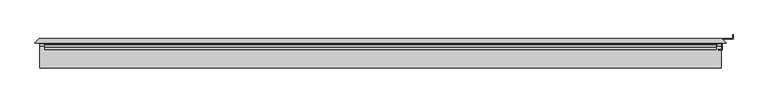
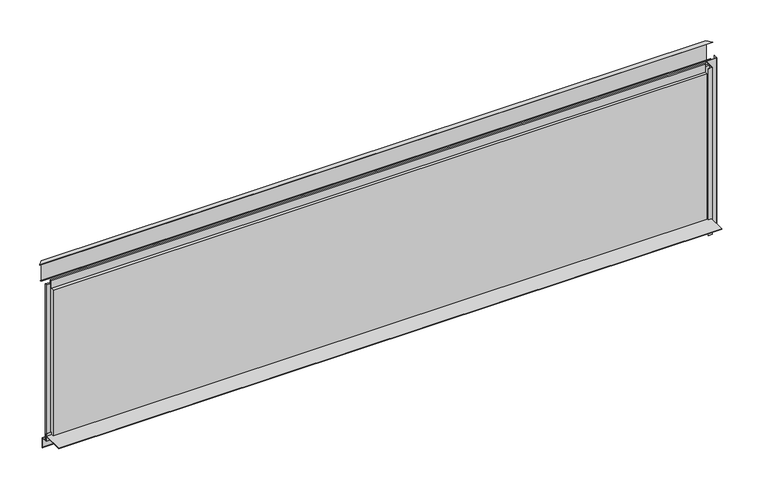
"""IFC4 building model written with IfcOpenShell, lengths in millimetres: plate geometry, Trimo_Qbiss Screen_Normal Panel-HORIZONTAL : HR - B."""

import ifcopenshell
import ifcopenshell.guid

model = None  # the IFC model being written
_history = None  # IfcOwnerHistory: only IFC2X3 demands one
_inside = {}  # id of a spatial element -> (the spatial element, [elements in it])
_under = {}  # id of a project, library or spatial element -> (it, [spatial elements below it])
_declared = {}  # id of a project -> (the project, [libraries it declares])
_typed = {}  # id of a type object -> (the type object, [elements of that type])
_made_of = {}  # id of a material, layer set ... -> (it, [elements and type objects made of it])


def new_model(schema):
    """Start an empty IFC model of exactly this schema.

    Asked for "IFC4X3", IfcOpenShell would pick the latest addendum, in which some entities
    have other attributes; the version numbers below select the first issue.
    IFC2X3 requires an IfcOwnerHistory on every rooted entity: one is made here for all.
    """
    global model, _history
    if schema == "IFC4X3":
        model = ifcopenshell.file(schema_version=(4, 3, 0, 0))
    else:
        model = ifcopenshell.file(schema=schema)
    _inside.clear()
    _under.clear()
    _declared.clear()
    _typed.clear()
    _made_of.clear()
    _history = None
    if model.schema == "IFC2X3":
        org = make("IfcOrganization", Name="unknown")
        user = make(
            "IfcPersonAndOrganization",
            ThePerson=make("IfcPerson", FamilyName="unknown"),
            TheOrganization=org,
        )
        app = make(
            "IfcApplication",
            ApplicationDeveloper=org,
            Version="unknown",
            ApplicationFullName="unknown",
            ApplicationIdentifier="unknown",
        )
        _history = make(
            "IfcOwnerHistory",
            OwningUser=user,
            OwningApplication=app,
            ChangeAction="ADDED",
            CreationDate=0,
        )
    return model


def make(cls, **values):
    """One entity of the class cls with the attributes given. An attribute that is None is left unset."""
    return model.create_entity(
        cls, **{name: value for name, value in values.items() if value is not None}
    )


def rooted(cls, **values):
    """An entity with a GlobalId (a new one), such as an element, a storey or a relation."""
    return make(cls, GlobalId=ifcopenshell.guid.new(), OwnerHistory=_history, **values)


def si_unit(unit_type, name, prefix=None):
    """IfcSIUnit, for example si_unit("LENGTHUNIT", "METRE", prefix="MILLI")."""
    return make("IfcSIUnit", UnitType=unit_type, Prefix=prefix, Name=name)


def assignment(units):
    """IfcUnitAssignment: the units of a project."""
    return None if units is None else make("IfcUnitAssignment", Units=units)


def point(xyz):
    """IfcCartesianPoint."""
    return None if xyz is None else make("IfcCartesianPoint", Coordinates=xyz)


def direction(xyz):
    """IfcDirection."""
    return None if xyz is None else make("IfcDirection", DirectionRatios=xyz)


def frame(location, z_axis=None, x_axis=None):
    """IfcAxis2Placement3D, a coordinate frame: its origin and axes. An axis left out is left unset."""
    return make(
        "IfcAxis2Placement3D",
        Location=point(location),
        Axis=direction(z_axis),
        RefDirection=direction(x_axis),
    )


def origin():
    """The frame at (0, 0, 0) with its axes left unset."""
    return frame((0.0, 0.0, 0.0))


def place(relative_to, where):
    """IfcLocalPlacement: puts the frame where relative to a parent placement (None: the world)."""
    return make(
        "IfcLocalPlacement", PlacementRelTo=relative_to, RelativePlacement=where
    )


def context(
    kind, dimensions, precision=None, world=None, true_north=None, identifier=None
):
    """IfcGeometricRepresentationContext, for example the 3D "Model" context."""
    return make(
        "IfcGeometricRepresentationContext",
        ContextIdentifier=identifier,
        ContextType=kind,
        CoordinateSpaceDimension=dimensions,
        Precision=precision,
        WorldCoordinateSystem=world,
        TrueNorth=true_north,
    )


def project(units=None, contexts=None):
    """IfcProject with its units and contexts."""
    return rooted(
        "IfcProject",
        Name="project",
        RepresentationContexts=contexts,
        UnitsInContext=assignment(units),
    )


def spatial(cls, under=None, at=None, **own):
    """A site, building, storey or space (cls), placed at a placement, below another one or the project."""
    s = rooted(cls, ObjectPlacement=at, **own)
    if under is not None:
        _under.setdefault(under.id(), (under, []))[1].append(s)
    return s


def polyline(points):
    """IfcPolyline through the points."""
    return make("IfcPolyline", Points=[point(p) for p in points])


def outline(outer, holes=None, kind="AREA"):
    """IfcArbitraryClosedProfileDef: a profile drawn as a closed curve; with holes, ...WithVoids."""
    if holes is None:
        return make("IfcArbitraryClosedProfileDef", ProfileType=kind, OuterCurve=outer)
    return make(
        "IfcArbitraryProfileDefWithVoids",
        ProfileType=kind,
        OuterCurve=outer,
        InnerCurves=holes,
    )


def extrude(swept, where, along, depth):
    """IfcExtrudedAreaSolid: the profile swept, set in the frame where, extruded along a direction by depth."""
    return make(
        "IfcExtrudedAreaSolid",
        SweptArea=swept,
        Position=where,
        ExtrudedDirection=direction(along),
        Depth=depth,
    )


def faces_of(points, faces, orient=None, outer=None):
    """IfcFace entities. A face is a list of loops; a loop is a list of indices into points, from 0.

    orient and outer hold one flag for each loop. By default every Orientation is true, the
    first loop of a face is its IfcFaceOuterBound and the others are IfcFaceBound.
    """
    made = []
    for i, loops in enumerate(faces):
        bounds = []
        for j, loop in enumerate(loops):
            is_outer = j == 0 if outer is None else outer[i][j]
            bounds.append(
                make(
                    "IfcFaceOuterBound" if is_outer else "IfcFaceBound",
                    Bound=make("IfcPolyLoop", Polygon=[points[k] for k in loop]),
                    Orientation=True if orient is None else orient[i][j],
                )
            )
        made.append(make("IfcFace", Bounds=bounds))
    return made


def faceted_brep(points, faces, orient=None, outer=None, voids=None):
    """IfcFacetedBrep: a solid bounded by flat faces; with voids (closed shells), ...WithVoids."""
    shared = [point(p) for p in points]
    hull = make("IfcClosedShell", CfsFaces=faces_of(shared, faces, orient, outer))
    if voids is None:
        return make("IfcFacetedBrep", Outer=hull)
    return make(
        "IfcFacetedBrepWithVoids",
        Outer=hull,
        Voids=[
            make(cls, CfsFaces=faces_of(shared, fs, o, b)) for cls, fs, o, b in voids
        ],
    )


def shape(context_of_items, identifier, shape_type, items):
    """IfcShapeRepresentation: the items that make up one representation, for example the "Body"."""
    return make(
        "IfcShapeRepresentation",
        ContextOfItems=context_of_items,
        RepresentationIdentifier=identifier,
        RepresentationType=shape_type,
        Items=items,
    )


def source(mapping_origin, context_of_items, identifier, shape_type, items):
    """IfcRepresentationMap: a shape defined once, which mapped items show again and again."""
    return make(
        "IfcRepresentationMap",
        MappingOrigin=mapping_origin,
        MappedRepresentation=shape(context_of_items, identifier, shape_type, items),
    )


def transform(
    local_origin,
    x_axis=None,
    y_axis=None,
    z_axis=None,
    scale=None,
    scale2=None,
    scale3=None,
    uniform=True,
):
    """IfcCartesianTransformationOperator3D, or its non-uniform kind. x_axis, y_axis, z_axis: its Axis1, 2, 3."""
    if uniform:
        return make(
            "IfcCartesianTransformationOperator3D",
            Axis1=direction(x_axis),
            Axis2=direction(y_axis),
            LocalOrigin=point(local_origin),
            Scale=scale,
            Axis3=direction(z_axis),
        )
    return make(
        "IfcCartesianTransformationOperator3DnonUniform",
        Axis1=direction(x_axis),
        Axis2=direction(y_axis),
        LocalOrigin=point(local_origin),
        Scale=scale,
        Axis3=direction(z_axis),
        Scale2=scale2,
        Scale3=scale3,
    )


def mapped(mapping_source, mapping_target):
    """IfcMappedItem: shows the shape of a source again, moved by a transform."""
    return make(
        "IfcMappedItem", MappingSource=mapping_source, MappingTarget=mapping_target
    )


def made_of(thing, what):
    """Note that an element or type object is made of a material, layer set ...; save() writes the relation."""
    if what is not None:
        _made_of.setdefault(what.id(), (what, []))[1].append(thing)
    return thing


def element(
    cls,
    number,
    at=None,
    inside=None,
    cuts=None,
    type_object=None,
    material=None,
    context=None,
    identifier="Body",
    shape_type=None,
    held_by="IfcProductDefinitionShape",
    body=None,
    shapes=None,
    **own,
):
    """One element of the class cls, such as IfcWall. Its Tag is "e" and its number.

    at: its placement. inside: the storey or other place that contains it. cuts: it is an
    opening in that element (IfcRelVoidsElement). A single representation is given by context,
    identifier, shape_type and body (its items); several are given by shapes. held_by: the class
    of the entity that holds the representations. save() writes the other relations.
    """
    e = rooted(cls, Tag="e%d" % number, ObjectPlacement=at, **own)
    if body is not None:
        shapes = [shape(context, identifier, shape_type, body)]
    if shapes is not None:
        e.Representation = make(held_by, Representations=shapes)
    if inside is not None:
        _inside.setdefault(inside.id(), (inside, []))[1].append(e)
    if cuts is not None:
        rooted(
            "IfcRelVoidsElement", RelatingBuildingElement=cuts, RelatedOpeningElement=e
        )
    if type_object is not None:
        _typed.setdefault(type_object.id(), (type_object, []))[1].append(e)
    return made_of(e, material)


def aggregate(whole, parts):
    """IfcRelAggregates: a whole, such as a stair, and the parts it consists of."""
    return rooted("IfcRelAggregates", RelatingObject=whole, RelatedObjects=parts)


def save(model, path):
    """Write the relations noted so far, then the file.

    IfcRelAggregates (storeys below a building ...), IfcRelContainedInSpatialStructure (elements
    in a storey), IfcRelDefinesByType, IfcRelAssociatesMaterial and IfcRelDeclares: one each for
    every whole, place, type object, material and project.
    """
    for whole, parts in _under.values():
        aggregate(whole, parts)
    for where, things in _inside.values():
        rooted(
            "IfcRelContainedInSpatialStructure",
            RelatedElements=things,
            RelatingStructure=where,
        )
    for kind, things in _typed.values():
        rooted("IfcRelDefinesByType", RelatedObjects=things, RelatingType=kind)
    for what, things in _made_of.values():
        rooted("IfcRelAssociatesMaterial", RelatedObjects=things, RelatingMaterial=what)
    for by, libraries in _declared.values():
        rooted("IfcRelDeclares", RelatingContext=by, RelatedDefinitions=libraries)
    model.write(path)


def plate_da8b7aa8(model_context):
    return source(origin(), model_context, "Body", "SolidModel", [
        faceted_brep([(1564.1421356, 85.8578644, 762.3421356), (1550.0, 100.0, 748.2), (1550.0, 100.0, 848.2), (1569.9307219, 80.0692781, 847.1554751), (1569.9307219, 80.0692781, 846.3543772), (1550.8, 99.2, 847.3569759), (1550.8, 99.2, 750.1313708), (1563.5764502, 86.4235498, 762.907821), (-1564.1421356, 85.8578644, 762.3421356), (-1550.0, 100.0, 748.2), (-1563.5764502, 86.4235498, 762.907821), (-1550.8, 99.2, 750.1313708), (-1550.8, 99.2, 847.3569759), (-1569.9307219, 80.0692781, 846.3543772), (-1569.9307219, 80.0692781, 847.1554751), (-1550.0, 100.0, 848.2)], [[[0, 1, 2, 3, 4, 5, 6, 7]], [[1, 0, 8, 9]], [[0, 7, 10, 8]], [[7, 6, 11, 10]], [[6, 5, 12, 11]], [[5, 4, 13, 12]], [[4, 3, 14, 13]], [[3, 2, 15, 14]], [[2, 1, 9, 15]], [[9, 8, 10, 11, 12, 13, 14, 15]]]),
        extrude(outline(polyline([(66.7, 14.0835797), (67.5, 14.0835797), (67.5, -23.0), (100.0, -25.8433816), (100.0, -76.0), (87.1509533, -63.1509533), (87.7166388, -62.5852679), (99.2, -74.0686292), (99.2, -26.5764465), (66.7, -23.7330649), (66.7, 1.0), (-32.5, 1.0), (-32.5, 1.8), (66.7, 1.8), (66.7, 14.0835797)])), frame((-1547.0, 0.0, 0.0), z_axis=(1.0, 0.0, 0.0), x_axis=(0.0, 1.0, 0.0)), (0.0, 0.0, 1.0), 3094.0),
        extrude(outline(polyline([(1550.0, 50.0), (1550.0, 100.0), (1600.0, 100.0), (1600.0, 118.5), (1600.8, 118.5), (1600.8, 99.2), (1550.8, 99.2), (1550.8, 49.2), (1532.5, 49.2), (1532.5, 50.0), (1550.0, 50.0)])), frame((0.0, 0.0, -76.0), z_axis=(0.0, 0.0, 1.0), x_axis=(1.0, 0.0, 0.0)), (0.0, 0.0, 1.0), 823.2),
        extrude(outline(polyline([(-1528.0, 76.5978162), (-1528.0, 67.8978162), (-1547.0, 67.8978162), (-1547.0, 76.5978162), (-1528.0, 76.5978162)])), frame((0.0, 0.0, -20.0), z_axis=(0.0, 0.0, 1.0), x_axis=(1.0, 0.0, 0.0)), (0.0, 0.0, 1.0), 767.2),
        extrude(outline(polyline([(1528.0, 67.8978162), (1528.0, 76.5978162), (1547.0, 76.5978162), (1547.0, 67.8978162), (1528.0, 67.8978162)])), frame((0.0, 0.0, -20.0), z_axis=(0.0, 0.0, 1.0), x_axis=(1.0, 0.0, 0.0)), (0.0, 0.0, 1.0), 767.2),
        extrude(outline(polyline([(1525.0, 76.0), (1525.0, 71.0), (-1525.0, 71.0), (-1525.0, 76.0), (1525.0, 76.0)])), frame((0.0, 0.0, 726.2), z_axis=(0.0, 0.0, 1.0), x_axis=(1.0, 0.0, 0.0)), (0.0, 0.0, 1.0), 21.0),
        extrude(outline(polyline([(71.0, 725.2), (100.0, 725.2), (100.0, 0.0), (72.0, 0.0), (72.0, 15.5), (62.0, 15.5), (62.0, 7.0), (50.0, 7.0), (50.0, 725.2), (63.0, 725.2), (63.0, 762.7), (71.0, 762.7), (71.0, 725.2)])), frame((-1525.0, 0.0, 0.0), z_axis=(1.0, 0.0, 0.0), x_axis=(0.0, 1.0, 0.0)), (0.0, 0.0, 1.0), 3050.0),
    ])


if __name__ == "__main__":
    model = new_model("IFC4")
    model_context = context("Model", 3, world=origin())
    ifc_project = project(units=[si_unit("LENGTHUNIT", "METRE", prefix="MILLI")], contexts=[model_context])
    site = spatial("IfcSite", under=ifc_project)
    building = spatial("IfcBuilding", under=site)
    placement = place(None, origin())
    plate_shape = plate_da8b7aa8(model_context)
    element("IfcPlate", 1, ObjectType="Trimo_Qbiss Screen_Normal Panel-HORIZONTAL : HR - B", at=placement, inside=building, context=model_context, shape_type="MappedRepresentation", body=[
        mapped(plate_shape, transform((0.0, 0.0, 0.0), x_axis=(1.0, 0.0, 0.0), y_axis=(0.0, 1.0, 0.0), z_axis=(0.0, 0.0, 1.0))),
    ])
    save(model, "model.ifc")
